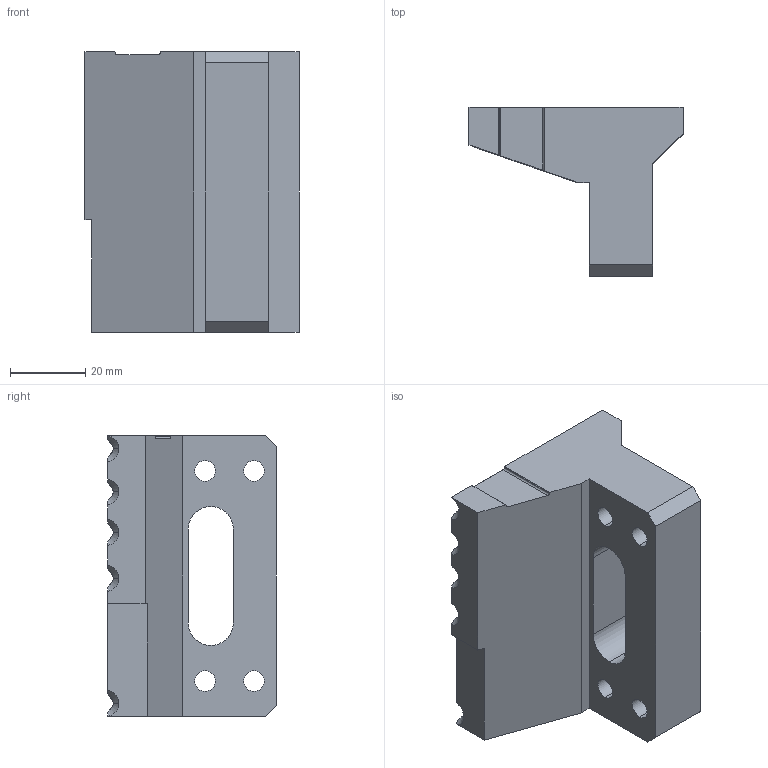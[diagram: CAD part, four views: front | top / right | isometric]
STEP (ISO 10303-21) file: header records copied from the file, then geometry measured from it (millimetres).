
FILE_DESCRIPTION (( 'STEP AP214' ), '1' );
FILE_NAME ('GZ30.21_V1气管夹紧块2.STEP', '2021-06-07T03:18:34', ( '微软中国' ), ( 'Microsoft' ), 'SwSTEP 2.0', 'SolidWorks 2017', '' );
FILE_SCHEMA (( 'AUTOMOTIVE_DESIGN' ));
Length unit declared in the file: millimetre
Products named in the file (1): GZ30.21_V1气管夹紧块2
Bounding box: 57 x 45 x 74.8 mm (x, y, z)
Volume: 88734.4 mm3; surface area: 18979.7 mm2
Topology: 1 solids, 1 shells, 83 faces, 231 edges, 154 vertices
Faces by surface type: plane 42, cylinder 26, cone 15
Entity records: 2769 total; most frequent: CARTESIAN_POINT 595, ORIENTED_EDGE 462, DIRECTION 427, EDGE_CURVE 231, VERTEX_POINT 154, AXIS2_PLACEMENT_3D 154, LINE 119, VECTOR 119
